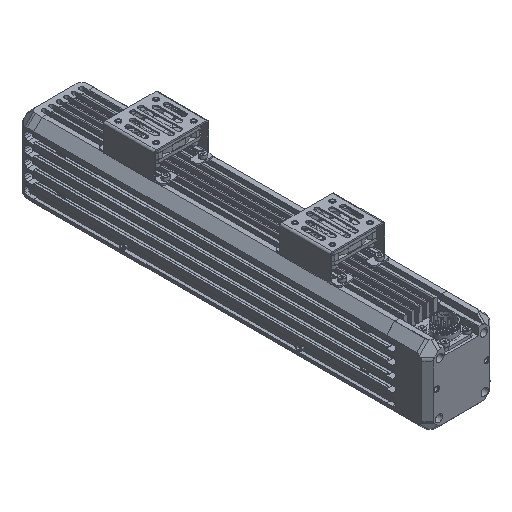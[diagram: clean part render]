
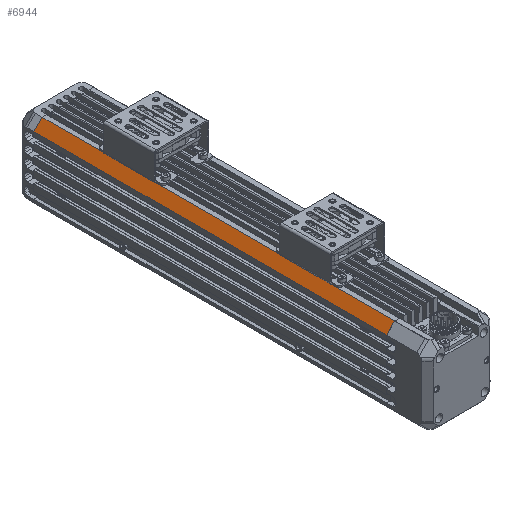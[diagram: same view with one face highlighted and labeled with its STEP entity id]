
A CAD part, isometric view. The second image highlights one B-rep face of the part: STEP entity #6944.
In plain terms, the highlighted planar face has unit normal (-0.707, 0, 0.707).
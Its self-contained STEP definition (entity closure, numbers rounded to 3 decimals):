
#545=DIRECTION('',(-0.707,0.,-0.707));
#546=VECTOR('',#545,9.899);
#547=CARTESIAN_POINT('',(-22.,150.,0.));
#548=LINE('',#547,#546);
#1181=DIRECTION('',(0.707,0.,0.707));
#1182=VECTOR('',#1181,9.899);
#1183=CARTESIAN_POINT('',(-29.,-150.,-7.));
#1184=LINE('',#1183,#1182);
#2281=DIRECTION('',(0.,-1.,0.));
#2282=VECTOR('',#2281,300.);
#2283=CARTESIAN_POINT('',(-29.,150.,-7.));
#2284=LINE('',#2283,#2282);
#2289=DIRECTION('',(0.,-1.,0.));
#2290=VECTOR('',#2289,300.);
#2291=CARTESIAN_POINT('',(-22.,150.,0.));
#2292=LINE('',#2291,#2290);
#3953=CARTESIAN_POINT('',(-22.,150.,0.));
#3954=VERTEX_POINT('',#3953);
#3955=CARTESIAN_POINT('',(-29.,150.,-7.));
#3956=VERTEX_POINT('',#3955);
#4333=CARTESIAN_POINT('',(-29.,-150.,-7.));
#4334=VERTEX_POINT('',#4333);
#4335=CARTESIAN_POINT('',(-22.,-150.,0.));
#4336=VERTEX_POINT('',#4335);
#6932=CARTESIAN_POINT('',(-29.,-150.,-7.));
#6933=DIRECTION('',(-0.707,0.,0.707));
#6934=DIRECTION('',(0.707,0.,0.707));
#6935=AXIS2_PLACEMENT_3D('',#6932,#6933,#6934);
#6936=PLANE('',#6935);
#6937=ORIENTED_EDGE('',*,*,#5447,.F.);
#6938=ORIENTED_EDGE('',*,*,#6926,.F.);
#6939=ORIENTED_EDGE('',*,*,#5045,.F.);
#6941=ORIENTED_EDGE('',*,*,#6940,.T.);
#6942=EDGE_LOOP('',(#6937,#6938,#6939,#6941));
#6943=FACE_OUTER_BOUND('',#6942,.F.);
#5045=EDGE_CURVE('',#3954,#3956,#548,.T.);
#5447=EDGE_CURVE('',#4334,#4336,#1184,.T.);
#6926=EDGE_CURVE('',#3956,#4334,#2284,.T.);
#6940=EDGE_CURVE('',#3954,#4336,#2292,.T.);
#6944=ADVANCED_FACE('',(#6943),#6936,.T.);
